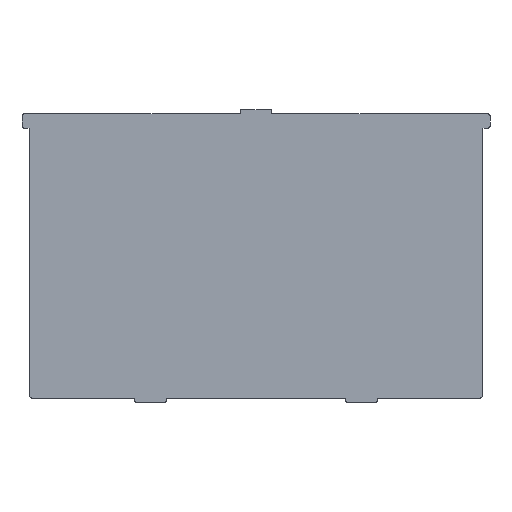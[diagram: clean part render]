
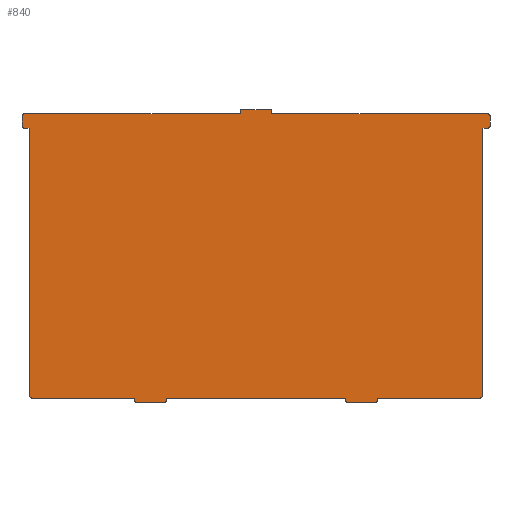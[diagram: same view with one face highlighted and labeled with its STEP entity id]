
A CAD part, top view. The second image highlights one B-rep face of the part: STEP entity #840.
In plain terms, the highlighted planar face has unit normal (0, 0, 1).
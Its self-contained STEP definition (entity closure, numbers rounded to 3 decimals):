
#213=CARTESIAN_POINT('',(52.,1.,1.25));
#214=DIRECTION('',(0.,0.,1.));
#215=DIRECTION('',(-1.,0.,0.));
#216=AXIS2_PLACEMENT_3D('',#213,#214,#215);
#218=DIRECTION('',(0.,-1.,0.));
#219=VECTOR('',#218,1.5);
#220=CARTESIAN_POINT('',(51.,2.5,1.25));
#221=LINE('',#220,#219);
#222=DIRECTION('',(1.,0.,0.));
#223=VECTOR('',#222,102.);
#224=CARTESIAN_POINT('',(-51.,2.5,1.25));
#225=LINE('',#224,#223);
#226=DIRECTION('',(0.,1.,0.));
#227=VECTOR('',#226,1.5);
#228=CARTESIAN_POINT('',(-51.,1.,1.25));
#229=LINE('',#228,#227);
#230=CARTESIAN_POINT('',(-52.,1.,1.25));
#231=DIRECTION('',(0.,0.,1.));
#232=DIRECTION('',(0.,-1.,0.));
#233=AXIS2_PLACEMENT_3D('',#230,#231,#232);
#235=DIRECTION('',(1.,0.,0.));
#236=VECTOR('',#235,16.);
#237=CARTESIAN_POINT('',(-68.,0.,1.25));
#238=LINE('',#237,#236);
#239=CARTESIAN_POINT('',(-68.,1.,1.25));
#240=DIRECTION('',(0.,0.,1.));
#241=DIRECTION('',(-1.,0.,0.));
#242=AXIS2_PLACEMENT_3D('',#239,#240,#241);
#244=DIRECTION('',(0.,-1.,0.));
#245=VECTOR('',#244,1.5);
#246=CARTESIAN_POINT('',(-69.,2.5,1.25));
#247=LINE('',#246,#245);
#248=DIRECTION('',(1.,0.,0.));
#249=VECTOR('',#248,58.);
#250=CARTESIAN_POINT('',(-127.,2.5,1.25));
#251=LINE('',#250,#249);
#252=CARTESIAN_POINT('',(-127.,4.5,1.25));
#253=DIRECTION('',(0.,0.,1.));
#254=DIRECTION('',(-1.,0.,0.));
#255=AXIS2_PLACEMENT_3D('',#252,#253,#254);
#257=DIRECTION('',(0.,-1.,0.));
#258=VECTOR('',#257,151.5);
#259=CARTESIAN_POINT('',(-129.,156.,1.25));
#260=LINE('',#259,#258);
#261=DIRECTION('',(1.,0.,0.));
#262=VECTOR('',#261,3.);
#263=CARTESIAN_POINT('',(-132.,156.,1.25));
#264=LINE('',#263,#262);
#265=CARTESIAN_POINT('',(-132.,157.,1.25));
#266=DIRECTION('',(0.,0.,1.));
#267=DIRECTION('',(-1.,0.,0.));
#268=AXIS2_PLACEMENT_3D('',#265,#266,#267);
#270=DIRECTION('',(0.,-1.,0.));
#271=VECTOR('',#270,6.);
#272=CARTESIAN_POINT('',(-133.,163.,1.25));
#273=LINE('',#272,#271);
#274=CARTESIAN_POINT('',(-132.,163.,1.25));
#275=DIRECTION('',(0.,0.,1.));
#276=DIRECTION('',(0.,1.,0.));
#277=AXIS2_PLACEMENT_3D('',#274,#275,#276);
#279=DIRECTION('',(0.,-1.,0.));
#280=VECTOR('',#279,1.5);
#281=CARTESIAN_POINT('',(-9.,165.5,1.25));
#282=LINE('',#281,#280);
#283=CARTESIAN_POINT('',(-8.,165.5,1.25));
#284=DIRECTION('',(0.,0.,1.));
#285=DIRECTION('',(0.,1.,0.));
#286=AXIS2_PLACEMENT_3D('',#283,#284,#285);
#288=DIRECTION('',(-1.,0.,0.));
#289=VECTOR('',#288,16.);
#290=CARTESIAN_POINT('',(8.,166.5,1.25));
#291=LINE('',#290,#289);
#292=CARTESIAN_POINT('',(8.,165.5,1.25));
#293=DIRECTION('',(0.,0.,1.));
#294=DIRECTION('',(1.,0.,0.));
#295=AXIS2_PLACEMENT_3D('',#292,#293,#294);
#297=DIRECTION('',(0.,1.,0.));
#298=VECTOR('',#297,1.5);
#299=CARTESIAN_POINT('',(9.,164.,1.25));
#300=LINE('',#299,#298);
#301=CARTESIAN_POINT('',(132.,163.,1.25));
#302=DIRECTION('',(0.,0.,1.));
#303=DIRECTION('',(1.,0.,0.));
#304=AXIS2_PLACEMENT_3D('',#301,#302,#303);
#306=DIRECTION('',(0.,1.,0.));
#307=VECTOR('',#306,6.);
#308=CARTESIAN_POINT('',(133.,157.,1.25));
#309=LINE('',#308,#307);
#310=CARTESIAN_POINT('',(132.,157.,1.25));
#311=DIRECTION('',(0.,0.,1.));
#312=DIRECTION('',(0.,-1.,0.));
#313=AXIS2_PLACEMENT_3D('',#310,#311,#312);
#315=DIRECTION('',(1.,0.,0.));
#316=VECTOR('',#315,3.);
#317=CARTESIAN_POINT('',(129.,156.,1.25));
#318=LINE('',#317,#316);
#319=DIRECTION('',(0.,1.,0.));
#320=VECTOR('',#319,151.5);
#321=CARTESIAN_POINT('',(129.,4.5,1.25));
#322=LINE('',#321,#320);
#323=CARTESIAN_POINT('',(127.,4.5,1.25));
#324=DIRECTION('',(0.,0.,1.));
#325=DIRECTION('',(0.,-1.,0.));
#326=AXIS2_PLACEMENT_3D('',#323,#324,#325);
#328=DIRECTION('',(1.,0.,0.));
#329=VECTOR('',#328,58.);
#330=CARTESIAN_POINT('',(69.,2.5,1.25));
#331=LINE('',#330,#329);
#332=DIRECTION('',(0.,1.,0.));
#333=VECTOR('',#332,1.5);
#334=CARTESIAN_POINT('',(69.,1.,1.25));
#335=LINE('',#334,#333);
#336=CARTESIAN_POINT('',(68.,1.,1.25));
#337=DIRECTION('',(0.,0.,1.));
#338=DIRECTION('',(0.,-1.,0.));
#339=AXIS2_PLACEMENT_3D('',#336,#337,#338);
#341=DIRECTION('',(1.,0.,0.));
#342=VECTOR('',#341,16.);
#343=CARTESIAN_POINT('',(52.,0.,1.25));
#344=LINE('',#343,#342);
#369=DIRECTION('',(-1.,0.,0.));
#370=VECTOR('',#369,123.);
#371=CARTESIAN_POINT('',(132.,164.,1.25));
#372=LINE('',#371,#370);
#385=DIRECTION('',(-1.,0.,0.));
#386=VECTOR('',#385,123.);
#387=CARTESIAN_POINT('',(-9.,164.,1.25));
#388=LINE('',#387,#386);
#438=CARTESIAN_POINT('',(-129.,156.,1.25));
#440=VERTEX_POINT('',#438);
#442=CARTESIAN_POINT('',(-69.,2.5,1.25));
#444=VERTEX_POINT('',#442);
#446=CARTESIAN_POINT('',(-51.,2.5,1.25));
#448=VERTEX_POINT('',#446);
#450=CARTESIAN_POINT('',(51.,2.5,1.25));
#452=VERTEX_POINT('',#450);
#454=CARTESIAN_POINT('',(69.,2.5,1.25));
#456=VERTEX_POINT('',#454);
#458=CARTESIAN_POINT('',(129.,156.,1.25));
#460=VERTEX_POINT('',#458);
#465=CARTESIAN_POINT('',(-129.,4.5,1.25));
#466=VERTEX_POINT('',#465);
#467=CARTESIAN_POINT('',(-127.,2.5,1.25));
#468=VERTEX_POINT('',#467);
#473=CARTESIAN_POINT('',(127.,2.5,1.25));
#474=VERTEX_POINT('',#473);
#475=CARTESIAN_POINT('',(129.,4.5,1.25));
#476=VERTEX_POINT('',#475);
#478=CARTESIAN_POINT('',(9.,164.,1.25));
#480=VERTEX_POINT('',#478);
#482=CARTESIAN_POINT('',(-9.,164.,1.25));
#484=VERTEX_POINT('',#482);
#489=CARTESIAN_POINT('',(51.,1.,1.25));
#490=VERTEX_POINT('',#489);
#491=CARTESIAN_POINT('',(52.,0.,1.25));
#492=VERTEX_POINT('',#491);
#497=CARTESIAN_POINT('',(68.,0.,1.25));
#498=VERTEX_POINT('',#497);
#499=CARTESIAN_POINT('',(69.,1.,1.25));
#500=VERTEX_POINT('',#499);
#505=CARTESIAN_POINT('',(-52.,0.,1.25));
#506=VERTEX_POINT('',#505);
#507=CARTESIAN_POINT('',(-51.,1.,1.25));
#508=VERTEX_POINT('',#507);
#513=CARTESIAN_POINT('',(-69.,1.,1.25));
#514=VERTEX_POINT('',#513);
#515=CARTESIAN_POINT('',(-68.,0.,1.25));
#516=VERTEX_POINT('',#515);
#521=CARTESIAN_POINT('',(132.,156.,1.25));
#522=VERTEX_POINT('',#521);
#523=CARTESIAN_POINT('',(133.,157.,1.25));
#524=VERTEX_POINT('',#523);
#529=CARTESIAN_POINT('',(133.,163.,1.25));
#530=VERTEX_POINT('',#529);
#531=CARTESIAN_POINT('',(132.,164.,1.25));
#532=VERTEX_POINT('',#531);
#537=CARTESIAN_POINT('',(-133.,157.,1.25));
#538=VERTEX_POINT('',#537);
#539=CARTESIAN_POINT('',(-132.,156.,1.25));
#540=VERTEX_POINT('',#539);
#545=CARTESIAN_POINT('',(-132.,164.,1.25));
#546=VERTEX_POINT('',#545);
#547=CARTESIAN_POINT('',(-133.,163.,1.25));
#548=VERTEX_POINT('',#547);
#553=CARTESIAN_POINT('',(9.,165.5,1.25));
#554=VERTEX_POINT('',#553);
#555=CARTESIAN_POINT('',(8.,166.5,1.25));
#556=VERTEX_POINT('',#555);
#561=CARTESIAN_POINT('',(-8.,166.5,1.25));
#562=VERTEX_POINT('',#561);
#563=CARTESIAN_POINT('',(-9.,165.5,1.25));
#564=VERTEX_POINT('',#563);
#779=CARTESIAN_POINT('',(0.,0.,1.25));
#780=DIRECTION('',(0.,0.,1.));
#781=DIRECTION('',(1.,0.,0.));
#782=AXIS2_PLACEMENT_3D('',#779,#780,#781);
#783=PLANE('',#782);
#784=ORIENTED_EDGE('',*,*,#645,.F.);
#785=ORIENTED_EDGE('',*,*,#661,.F.);
#786=ORIENTED_EDGE('',*,*,#673,.F.);
#787=ORIENTED_EDGE('',*,*,#717,.F.);
#788=ORIENTED_EDGE('',*,*,#732,.F.);
#789=ORIENTED_EDGE('',*,*,#747,.F.);
#790=ORIENTED_EDGE('',*,*,#760,.F.);
#791=ORIENTED_EDGE('',*,*,#774,.F.);
#792=ORIENTED_EDGE('',*,*,#687,.F.);
#794=ORIENTED_EDGE('',*,*,#793,.F.);
#796=ORIENTED_EDGE('',*,*,#795,.F.);
#798=ORIENTED_EDGE('',*,*,#797,.F.);
#800=ORIENTED_EDGE('',*,*,#799,.F.);
#802=ORIENTED_EDGE('',*,*,#801,.F.);
#804=ORIENTED_EDGE('',*,*,#803,.F.);
#806=ORIENTED_EDGE('',*,*,#805,.F.);
#808=ORIENTED_EDGE('',*,*,#807,.F.);
#810=ORIENTED_EDGE('',*,*,#809,.F.);
#812=ORIENTED_EDGE('',*,*,#811,.F.);
#814=ORIENTED_EDGE('',*,*,#813,.F.);
#816=ORIENTED_EDGE('',*,*,#815,.F.);
#818=ORIENTED_EDGE('',*,*,#817,.F.);
#820=ORIENTED_EDGE('',*,*,#819,.F.);
#822=ORIENTED_EDGE('',*,*,#821,.F.);
#824=ORIENTED_EDGE('',*,*,#823,.F.);
#826=ORIENTED_EDGE('',*,*,#825,.F.);
#828=ORIENTED_EDGE('',*,*,#827,.F.);
#830=ORIENTED_EDGE('',*,*,#829,.F.);
#831=ORIENTED_EDGE('',*,*,#705,.F.);
#833=ORIENTED_EDGE('',*,*,#832,.F.);
#835=ORIENTED_EDGE('',*,*,#834,.F.);
#837=ORIENTED_EDGE('',*,*,#836,.F.);
#838=EDGE_LOOP('',(#784,#785,#786,#787,#788,#789,#790,#791,#792,#794,#796,#798,
#800,#802,#804,#806,#808,#810,#812,#814,#816,#818,#820,#822,#824,#826,#828,#830,
#831,#833,#835,#837));
#839=FACE_OUTER_BOUND('',#838,.F.);
#217=CIRCLE('',#216,1.);
#234=CIRCLE('',#233,1.);
#243=CIRCLE('',#242,1.);
#256=CIRCLE('',#255,2.);
#269=CIRCLE('',#268,1.);
#278=CIRCLE('',#277,1.);
#287=CIRCLE('',#286,1.);
#296=CIRCLE('',#295,1.);
#305=CIRCLE('',#304,1.);
#314=CIRCLE('',#313,1.);
#327=CIRCLE('',#326,2.);
#340=CIRCLE('',#339,1.);
#645=EDGE_CURVE('',#490,#492,#217,.T.);
#661=EDGE_CURVE('',#452,#490,#221,.T.);
#673=EDGE_CURVE('',#448,#452,#225,.T.);
#687=EDGE_CURVE('',#468,#444,#251,.T.);
#705=EDGE_CURVE('',#456,#474,#331,.T.);
#717=EDGE_CURVE('',#508,#448,#229,.T.);
#732=EDGE_CURVE('',#506,#508,#234,.T.);
#747=EDGE_CURVE('',#516,#506,#238,.T.);
#760=EDGE_CURVE('',#514,#516,#243,.T.);
#774=EDGE_CURVE('',#444,#514,#247,.T.);
#793=EDGE_CURVE('',#466,#468,#256,.T.);
#795=EDGE_CURVE('',#440,#466,#260,.T.);
#797=EDGE_CURVE('',#540,#440,#264,.T.);
#799=EDGE_CURVE('',#538,#540,#269,.T.);
#801=EDGE_CURVE('',#548,#538,#273,.T.);
#803=EDGE_CURVE('',#546,#548,#278,.T.);
#805=EDGE_CURVE('',#484,#546,#388,.T.);
#807=EDGE_CURVE('',#564,#484,#282,.T.);
#809=EDGE_CURVE('',#562,#564,#287,.T.);
#811=EDGE_CURVE('',#556,#562,#291,.T.);
#813=EDGE_CURVE('',#554,#556,#296,.T.);
#815=EDGE_CURVE('',#480,#554,#300,.T.);
#817=EDGE_CURVE('',#532,#480,#372,.T.);
#819=EDGE_CURVE('',#530,#532,#305,.T.);
#821=EDGE_CURVE('',#524,#530,#309,.T.);
#823=EDGE_CURVE('',#522,#524,#314,.T.);
#825=EDGE_CURVE('',#460,#522,#318,.T.);
#827=EDGE_CURVE('',#476,#460,#322,.T.);
#829=EDGE_CURVE('',#474,#476,#327,.T.);
#832=EDGE_CURVE('',#500,#456,#335,.T.);
#834=EDGE_CURVE('',#498,#500,#340,.T.);
#836=EDGE_CURVE('',#492,#498,#344,.T.);
#840=ADVANCED_FACE('',(#839),#783,.T.);
